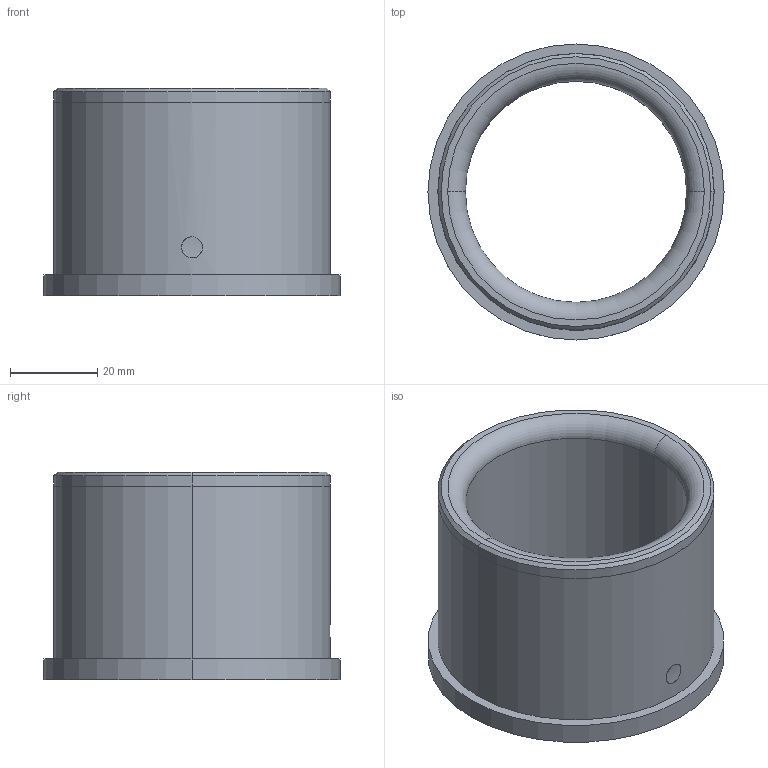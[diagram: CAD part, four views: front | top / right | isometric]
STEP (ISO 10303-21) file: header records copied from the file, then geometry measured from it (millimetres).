
FILE_DESCRIPTION (( 'STEP AP214' ), '1' );
FILE_NAME ('S2000-15G.step', '2024-07-23T18:52:54', ( '' ), ( '' ), 'SwSTEP 2.0', 'SolidWorks 2017', '' );
FILE_SCHEMA (( 'AUTOMOTIVE_DESIGN' ));
Length unit declared in the file: inch
Products named in the file (1): S2000-15G
Bounding box: 68 x 68 x 47.62 mm (x, y, z)
Volume: 55644.1 mm3; surface area: 19871.5 mm2
Topology: 1 solids, 1 shells, 21 faces, 42 edges, 26 vertices
Faces by surface type: cylinder 9, cone 4, plane 4, bspline 2, torus 2
Entity records: 819 total; most frequent: CARTESIAN_POINT 288, DIRECTION 102, ORIENTED_EDGE 84, AXIS2_PLACEMENT_3D 44, EDGE_CURVE 42, VERTEX_POINT 26, EDGE_LOOP 26, CIRCLE 24
